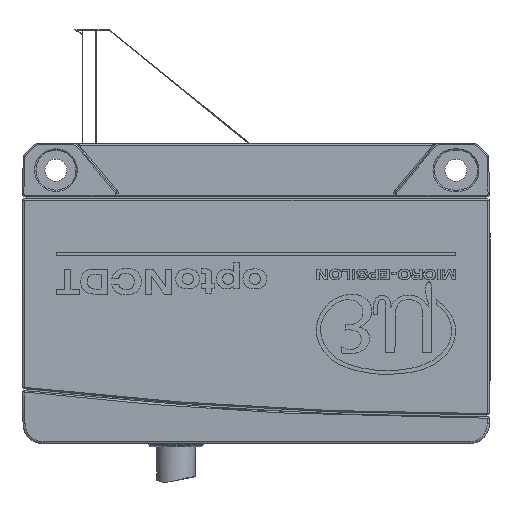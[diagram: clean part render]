
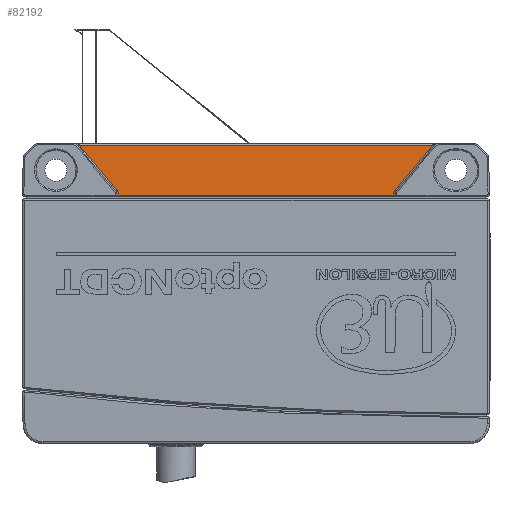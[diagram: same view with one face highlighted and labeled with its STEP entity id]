
A CAD part, front view. The second image highlights one B-rep face of the part: STEP entity #82192.
In plain terms, the highlighted planar face has unit normal (0, -1, 0.018).
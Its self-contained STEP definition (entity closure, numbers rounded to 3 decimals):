
#2421 = DIRECTION ( 'NONE',  ( -1., 0., 0. ) ) ;
#2482 = CARTESIAN_POINT ( 'NONE',  ( 20.648, -15.502, 0.654 ) ) ;
#2517 = VECTOR ( 'NONE', #2421, 1000. ) ;
#2730 = DIRECTION ( 'NONE',  ( 0.017, 0.017, 1. ) ) ;
#3017 = CARTESIAN_POINT ( 'NONE',  ( 20.645, -15.505, 0.492 ) ) ;
#3021 = DIRECTION ( 'NONE',  ( 0.643, -0.013, -0.766 ) ) ;
#6551 = CARTESIAN_POINT ( 'NONE',  ( -20.648, -15.502, 0.654 ) ) ;
#7681 = CARTESIAN_POINT ( 'NONE',  ( 26.495, -15.379, 7.705 ) ) ;
#8201 = LINE ( 'NONE', #103539, #36236 ) ;
#11473 = EDGE_CURVE ( 'NONE', #19309, #94697, #110085, .T. ) ;
#13965 = CARTESIAN_POINT ( 'NONE',  ( -20.64, -15.51, 0.197 ) ) ;
#19309 = VERTEX_POINT ( 'NONE', #3017 ) ;
#20504 = CARTESIAN_POINT ( 'NONE',  ( -20.8, -15.55, -2.1 ) ) ;
#21250 = EDGE_CURVE ( 'NONE', #23945, #93299, #69109, .T. ) ;
#21745 = CARTESIAN_POINT ( 'NONE',  ( 20.645, -15.505, 0.492 ) ) ;
#22751 = EDGE_CURVE ( 'NONE', #72525, #70099, #74094, .T. ) ;
#23165 = CARTESIAN_POINT ( 'NONE',  ( -20.645, -15.505, 0.492 ) ) ;
#23945 = VERTEX_POINT ( 'NONE', #13965 ) ;
#27954 = LINE ( 'NONE', #65002, #71292 ) ;
#30078 = EDGE_CURVE ( 'NONE', #93299, #19309, #61855, .T. ) ;
#30457 = ORIENTED_EDGE ( 'NONE', *, *, #71122, .T. ) ;
#32961 = CARTESIAN_POINT ( 'NONE',  ( 2.128, -15.886, -21.333 ) ) ;
#34072 = VECTOR ( 'NONE', #52864, 1000. ) ;
#34204 = ORIENTED_EDGE ( 'NONE', *, *, #22751, .T. ) ;
#36236 = VECTOR ( 'NONE', #114907, 1000. ) ;
#39732 = PLANE ( 'NONE',  #70175 ) ;
#41538 = CARTESIAN_POINT ( 'NONE',  ( -20.705, -15.499, 0.805 ) ) ;
#42515 = ORIENTED_EDGE ( 'NONE', *, *, #96006, .T. ) ;
#42592 = LINE ( 'NONE', #32961, #84544 ) ;
#47611 = CARTESIAN_POINT ( 'NONE',  ( 20.705, -15.499, 0.805 ) ) ;
#47862 = CARTESIAN_POINT ( 'NONE',  ( 20.587, -15.563, -2.822 ) ) ;
#48737 = DIRECTION ( 'NONE',  ( 0., 0.017, 1. ) ) ;
#52508 = DIRECTION ( 'NONE',  ( 0.643, 0.013, 0.766 ) ) ;
#52594 = VERTEX_POINT ( 'NONE', #23165 ) ;
#52864 = DIRECTION ( 'NONE',  ( 1., 0., 0. ) ) ;
#54940 = ORIENTED_EDGE ( 'NONE', *, *, #11473, .T. ) ;
#55186 = EDGE_LOOP ( 'NONE', ( #30457, #66767, #97692, #54940, #42515, #34204, #78801, #57323 ) ) ;
#57323 = ORIENTED_EDGE ( 'NONE', *, *, #101567, .T. ) ;
#61855 = LINE ( 'NONE', #47862, #63188 ) ;
#63188 = VECTOR ( 'NONE', #2730, 1000. ) ;
#65002 = CARTESIAN_POINT ( 'NONE',  ( -19.313, -15.528, -0.853 ) ) ;
#66767 = ORIENTED_EDGE ( 'NONE', *, *, #21250, .T. ) ;
#69109 = LINE ( 'NONE', #97127, #34072 ) ;
#69280 = CARTESIAN_POINT ( 'NONE',  ( -20.645, -15.505, 0.492 ) ) ;
#70099 = VERTEX_POINT ( 'NONE', #114008 ) ;
#70175 = AXIS2_PLACEMENT_3D ( 'NONE', #20504, #75385, #48737 ) ;
#71122 = EDGE_CURVE ( 'NONE', #52594, #23945, #8201, .T. ) ;
#71292 = VECTOR ( 'NONE', #3021, 1000. ) ;
#72525 = VERTEX_POINT ( 'NONE', #7681 ) ;
#74001 = FACE_OUTER_BOUND ( 'NONE', #55186, .T. ) ;
#74094 = LINE ( 'NONE', #91800, #2517 ) ;
#74726 = CARTESIAN_POINT ( 'NONE',  ( 20.64, -15.51, 0.197 ) ) ;
#75385 = DIRECTION ( 'NONE',  ( 0., -1., 0.017 ) ) ;
#78801 = ORIENTED_EDGE ( 'NONE', *, *, #97380, .T. ) ;
#82192 = ADVANCED_FACE ( 'NONE', ( #74001 ), #39732, .T. ) ;
#84544 = VECTOR ( 'NONE', #52508, 1000. ) ;
#89412 =( BOUNDED_CURVE ( )  B_SPLINE_CURVE ( 3, ( #113990, #41538, #6551, #69280 ),
 .UNSPECIFIED., .F., .F. ) 
 B_SPLINE_CURVE_WITH_KNOTS ( ( 4, 4 ),
 ( 0.873, 1.553 ),
 .UNSPECIFIED. ) 
 CURVE ( )  GEOMETRIC_REPRESENTATION_ITEM ( )  RATIONAL_B_SPLINE_CURVE ( ( 1., 0.962, 0.962, 1. ) ) 
 REPRESENTATION_ITEM ( '' )  );
#91800 = CARTESIAN_POINT ( 'NONE',  ( -26.808, -15.379, 7.705 ) ) ;
#91891 = VERTEX_POINT ( 'NONE', #101798 ) ;
#93299 = VERTEX_POINT ( 'NONE', #74726 ) ;
#94697 = VERTEX_POINT ( 'NONE', #111610 ) ;
#96006 = EDGE_CURVE ( 'NONE', #94697, #72525, #42592, .T. ) ;
#97127 = CARTESIAN_POINT ( 'NONE',  ( -20.8, -15.51, 0.197 ) ) ;
#97380 = EDGE_CURVE ( 'NONE', #70099, #91891, #27954, .T. ) ;
#97692 = ORIENTED_EDGE ( 'NONE', *, *, #30078, .T. ) ;
#101567 = EDGE_CURVE ( 'NONE', #91891, #52594, #89412, .T. ) ;
#101798 = CARTESIAN_POINT ( 'NONE',  ( -20.809, -15.497, 0.929 ) ) ;
#103539 = CARTESIAN_POINT ( 'NONE',  ( -20.6, -15.55, -2.097 ) ) ;
#110085 =( BOUNDED_CURVE ( )  B_SPLINE_CURVE ( 3, ( #21745, #2482, #47611, #110301 ),
 .UNSPECIFIED., .F., .F. ) 
 B_SPLINE_CURVE_WITH_KNOTS ( ( 4, 4 ),
 ( 4.73, 5.411 ),
 .UNSPECIFIED. ) 
 CURVE ( )  GEOMETRIC_REPRESENTATION_ITEM ( )  RATIONAL_B_SPLINE_CURVE ( ( 1., 0.962, 0.962, 1. ) ) 
 REPRESENTATION_ITEM ( '' )  );
#110301 = CARTESIAN_POINT ( 'NONE',  ( 20.809, -15.497, 0.929 ) ) ;
#111610 = CARTESIAN_POINT ( 'NONE',  ( 20.809, -15.497, 0.929 ) ) ;
#113990 = CARTESIAN_POINT ( 'NONE',  ( -20.809, -15.497, 0.929 ) ) ;
#114008 = CARTESIAN_POINT ( 'NONE',  ( -26.495, -15.379, 7.705 ) ) ;
#114907 = DIRECTION ( 'NONE',  ( 0.017, -0.017, -1. ) ) ;
